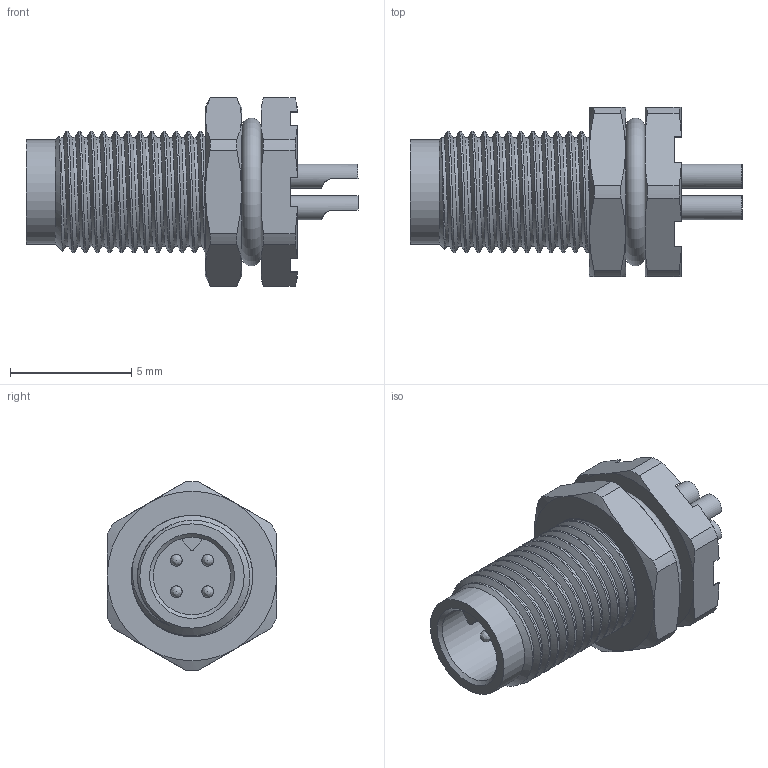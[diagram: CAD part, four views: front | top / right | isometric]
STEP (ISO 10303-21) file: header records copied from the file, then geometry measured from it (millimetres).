
FILE_DESCRIPTION(/* description */ (''),/* implementation_level */ '2;1');
FILE_NAME(/* name */ 'M5-F-P4.prt.stp',/* time_stamp */ '2023-06-06T13:41:58+08:00',/* author */ (''),/* organization */ (''),/* preprocessor_version */ 'ST-DEVELOPER v16.7',/* originating_system */ 'SIEMENS PLM Software NX 1847',/* authorisation */ '');
FILE_SCHEMA (('AUTOMOTIVE_DESIGN { 1 0 10303 214 3 1 1 1 }'));
Length unit declared in the file: millimetre
Products named in the file (9): T-57 M5 焊线式公针 法兰座用 3 4芯 
OD0.48_67280ID; T-57 M5 焊线式公针 法兰座用 3 4芯 
OD0.48_67274ID; T-57 M5 焊线式公针 法兰座用 3 4芯 
OD0.48_67276ID; T-57 M5 焊线式公针 法兰座用 3 4芯 
OD0.48_67279ID; M5 短体公胶芯 4芯 法兰座用_
67275ID; S-51 M5 板后安装插座公头外壳_
67278ID; M5 插座O型密封圈Φ5XΦ3.
4X0.8_67277ID; 六角螺母M5X0.5 （7.8-7-1.5 M5 座子螺母）_
81544ID; M5-F-P4
Assembly tree (8 placements, depth 2):
  M5-F-P4
    六角螺母M5X0.5 （7.8-7-1.5 M5 座子螺母）_
81544ID
    M5 插座O型密封圈Φ5XΦ3.
4X0.8_67277ID
    S-51 M5 板后安装插座公头外壳_
67278ID
    M5 短体公胶芯 4芯 法兰座用_
67275ID
    T-57 M5 焊线式公针 法兰座用 3 4芯 
OD0.48_67279ID
    T-57 M5 焊线式公针 法兰座用 3 4芯 
OD0.48_67276ID
    T-57 M5 焊线式公针 法兰座用 3 4芯 
OD0.48_67274ID
    T-57 M5 焊线式公针 法兰座用 3 4芯 
OD0.48_67280ID
Bounding box: 13.7 x 7 x 7.8 mm (x, y, z)
Volume: 218.3 mm3; surface area: 669.6 mm2
Topology: 3 solids, 4 shells, 157 faces, 405 edges, 262 vertices
Faces by surface type: plane 59, cylinder 48, cone 39, bspline 10, torus 1
Full cylindrical faces by diameter (mm): 0.48 x4, 0.5 x4, 0.603 x4, 1 x4, 3.5 x1, 3.6 x1, 4 x1, 4.3 x1
Entity records: 10966 total; most frequent: CARTESIAN_POINT 7430, ORIENTED_EDGE 678, DIRECTION 663, EDGE_CURVE 339, AXIS2_PLACEMENT_3D 269, VERTEX_POINT 239, EDGE_LOOP 203, ADVANCED_FACE 156
